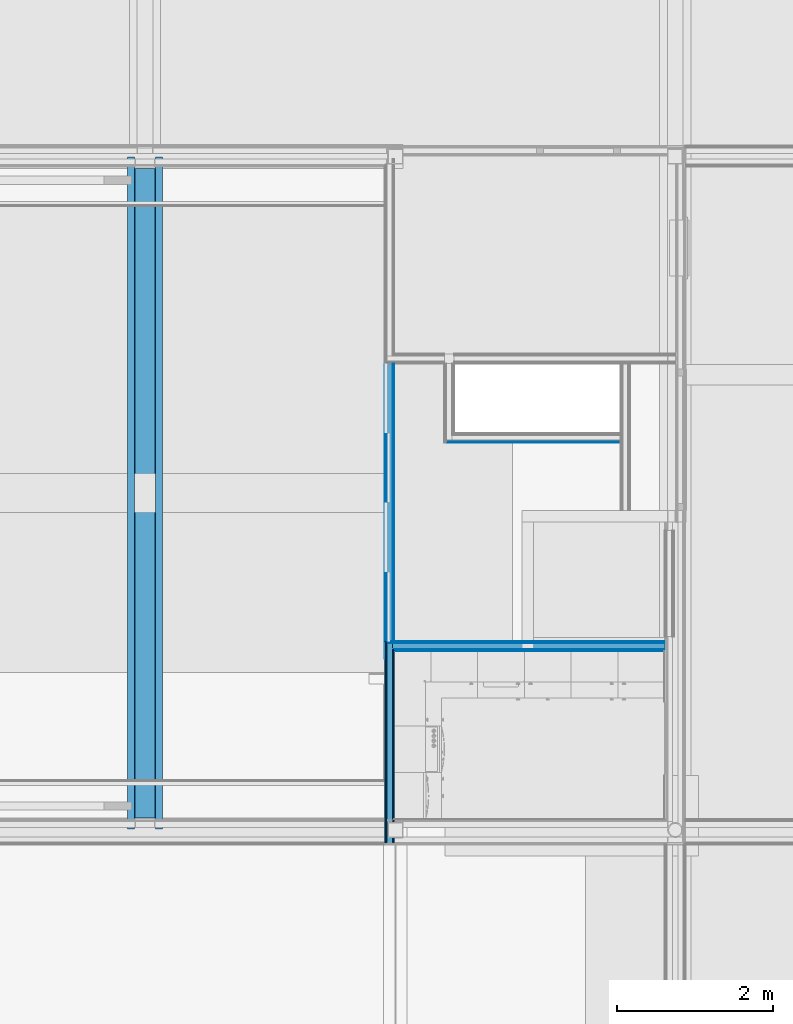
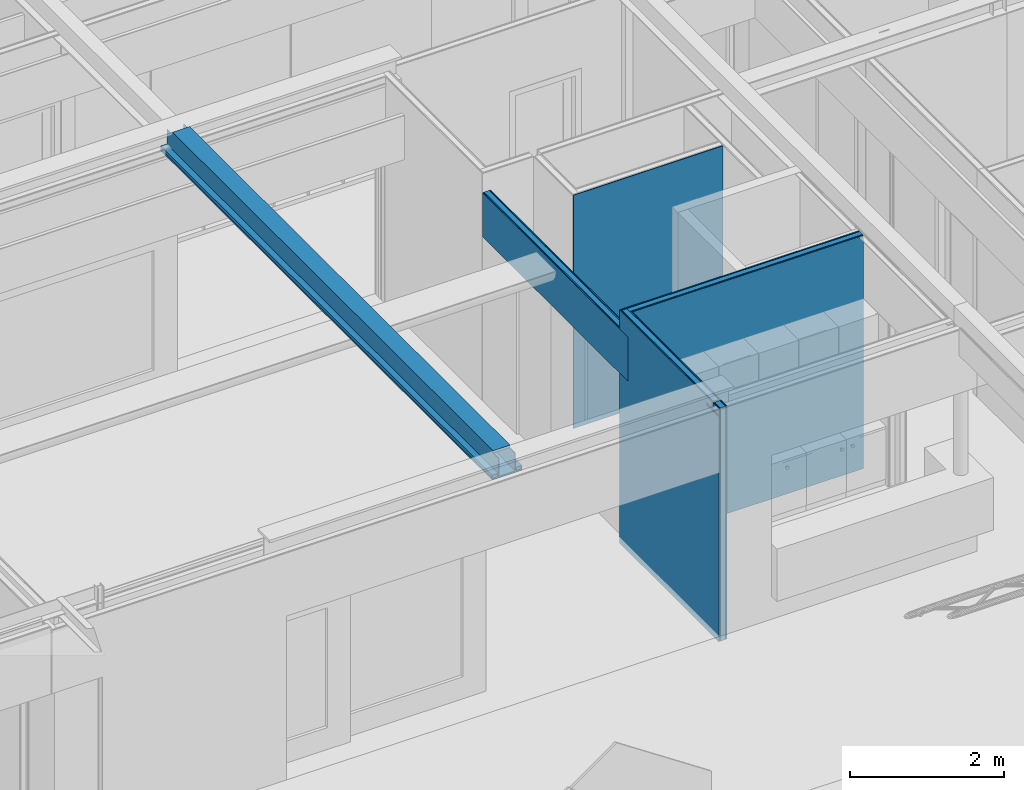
# One storey, part 69 of 165: 19 building element parts, 5 elements without a shape of their own.
"""IFC2X3 building model written with IfcOpenShell, lengths in millimetres."""

from ifc_helpers import new_model, entity, si_unit, converted_unit, derived_unit, money_unit, direction, frame, origin_with_axes, place, context, subcontext, project, spatial, faceted_brep, material, type_object, element, aggregate, save


model = new_model("IFC2X3")

# Units and contexts
model_context = context("Model", 3, precision=0.01, world=origin_with_axes(), true_north=direction((0.0, 1.0)))
body_context = subcontext(model_context, "Body", "Model", "MODEL_VIEW")
ifc_project = project(units=[si_unit("LENGTHUNIT", "METRE", prefix="MILLI"), si_unit("AREAUNIT", "SQUARE_METRE"), si_unit("VOLUMEUNIT", "CUBIC_METRE"), converted_unit("PLANEANGLEUNIT", "DEGREE", entity("IfcPlaneAngleMeasure", 0.0174532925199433), si_unit("PLANEANGLEUNIT", "RADIAN"), dimensions=[0, 0, 0, 0, 0, 0, 0]), money_unit("EUR"), converted_unit("TIMEUNIT", "Year", entity("IfcTimeMeasure", 31556926.0), si_unit("TIMEUNIT", "SECOND"), dimensions=[0, 0, 1, 0, 0, 0, 0]), si_unit("MASSUNIT", "GRAM", prefix="KILO"), si_unit("THERMODYNAMICTEMPERATUREUNIT", "DEGREE_CELSIUS"), si_unit("LUMINOUSINTENSITYUNIT", "LUMEN"), si_unit("ENERGYUNIT", "JOULE", prefix="MEGA"), derived_unit("THERMALCONDUCTANCEUNIT", [(si_unit("POWERUNIT", "WATT"), 1), (si_unit("LENGTHUNIT", "METRE"), -1), (si_unit("THERMODYNAMICTEMPERATUREUNIT", "KELVIN"), -1)]), derived_unit("SPECIFICHEATCAPACITYUNIT", [(si_unit("ENERGYUNIT", "JOULE"), 1), (si_unit("MASSUNIT", "GRAM", prefix="KILO"), -1), (si_unit("THERMODYNAMICTEMPERATUREUNIT", "KELVIN"), -1)]), derived_unit("MASSDENSITYUNIT", [(si_unit("MASSUNIT", "GRAM", prefix="KILO"), 1), (si_unit("VOLUMEUNIT", "CUBIC_METRE"), -1)])], contexts=[model_context])

# Site, building, storey
site_placement = place(None, origin_with_axes())
site = spatial("IfcSite", under=ifc_project, at=site_placement, Name="Site", CompositionType="ELEMENT")
building_placement = place(site_placement, origin_with_axes())
building = spatial("IfcBuilding", under=site, at=building_placement, Name="Naam gebouw", CompositionType="ELEMENT")
storey_placement = place(building_placement, origin_with_axes())
storey = spatial("IfcBuildingStorey", under=building, at=storey_placement, Name="Begane grond", CompositionType="ELEMENT", Elevation=0.0)

# Proxy, building element parts
building_element_proxy_type = type_object("IfcBuildingElementProxyType", Name="22 Metal stud 125 gips 125", PredefinedType="NOTDEFINED")
proxy_1_placement = place(storey_placement, frame((20775.00204583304, 10644.9988167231, -100.0), z_axis=(0.0, 0.0, 1.0), x_axis=(-1.15397287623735e-06, 0.9999999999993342, 0.0)))
proxy_1 = element("IfcBuildingElementProxy", 1, at=proxy_1_placement, inside=storey, type_object=building_element_proxy_type, Name="_Wand-x")
ifc_material_1 = material(Name="Gipsplaat")
building_element_part_1_placement = place(proxy_1_placement, origin_with_axes())
building_element_part_1 = element("IfcBuildingElementPart", 2, at=building_element_part_1_placement, material=ifc_material_1, Name="Gipsplaat", context=body_context, shape_type="Brep", body=[
    faceted_brep([(175.501264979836, -24.99999999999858, 3700.0), (175.501264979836, -24.99999999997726, 3604.999999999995), (319.0012649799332, -24.99999999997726, 3604.999999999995), (319.0012649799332, -24.99999999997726, 3564.999999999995), (11.00126497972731, -24.99999999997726, 3564.999999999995), (11.00126497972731, -24.99999999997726, 3604.999999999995), (154.5012649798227, -24.99999999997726, 3604.999999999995), (154.5012649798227, -25.00000000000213, 3700.0), (0.0, -25.00000000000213, 3700.0), (0.0, -25.00000000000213, 0.0), (2572.499395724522, -24.99999999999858, 0.0), (2572.499395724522, -24.99999999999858, 3700.0), (175.5012794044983, -12.49999999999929, 3700.0), (175.5012794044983, -12.49999999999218, 3604.999999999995), (319.0012794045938, -12.49999999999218, 3604.999999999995), (319.0012794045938, -12.49999999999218, 3564.999999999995), (11.00127940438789, -12.49999999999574, 3564.999999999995), (11.00127940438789, -12.49999999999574, 3604.999999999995), (154.5012794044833, -12.49999999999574, 3604.999999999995), (154.5012794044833, -12.49999999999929, 3700.0), (0.0, -12.49999999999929, 3700.0), (0.0, -12.49999999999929, 0.0), (2572.499412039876, -12.49999999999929, 0.0), (2572.499412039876, -12.49999999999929, 3700.0)], [[[0, 1, 2, 3, 4, 5, 6, 7, 8, 9, 10, 11]], [[1, 0, 12, 13]], [[2, 1, 13, 14]], [[3, 2, 14, 15]], [[4, 3, 15, 16]], [[5, 4, 16, 17]], [[6, 5, 17, 18]], [[19, 7, 6, 18]], [[7, 19, 20, 8]], [[20, 21, 9, 8]], [[21, 22, 10, 9]], [[22, 23, 11, 10]], [[12, 0, 11, 23]], [[13, 12, 23, 22, 21, 20, 19, 18, 17, 16, 15, 14]]]),
])
ifc_material_2 = material(Name="ALG - LICHTE SCHEIDINGSWAND")
building_element_part_2_placement = place(proxy_1_placement, origin_with_axes())
building_element_part_2 = element("IfcBuildingElementPart", 3, at=building_element_part_2_placement, material=ifc_material_2, Name="ALG - LICHTE SCHEIDINGSWAND", context=body_context, shape_type="Brep", body=[
    faceted_brep([(265.0011784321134, -99.99999999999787, 29.9999999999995), (265.0012534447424, -34.99619406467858, 29.9999999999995), (65.00125344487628, -34.99596327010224, 29.9999999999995), (65.00117843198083, -99.99999999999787, 29.9999999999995), (265.0011784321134, -99.99999999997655, 3564.999999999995), (265.0012534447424, -34.99619406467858, 3564.999999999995), (65.00125344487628, -34.99596327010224, 3564.999999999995), (65.00117843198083, -99.99999999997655, 3564.999999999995), (11.00117843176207, -99.99999999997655, 3564.999999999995), (11.00117843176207, -99.99999999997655, 3604.999999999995), (154.5011784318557, -99.99999999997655, 3604.999999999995), (154.5011784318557, -100.0000000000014, 3700.0), (0.0, -100.0000000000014, 3700.0), (0.0, -100.0000000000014, 0.0), (2559.999297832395, -99.99999999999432, 0.0), (2559.999297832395, -99.99999999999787, 3700.0), (175.5011784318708, -99.99999999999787, 3700.0), (175.5011784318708, -99.99999999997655, 3604.999999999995), (319.001178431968, -99.99999999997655, 3604.999999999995), (319.001178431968, -99.99999999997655, 3564.999999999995), (319.0012649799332, -24.99999999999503, 3564.999999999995), (11.00126497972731, -24.99999999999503, 3564.999999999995), (11.00126497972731, -24.99999999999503, 3604.999999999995), (154.5012649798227, -24.99999999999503, 3604.999999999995), (154.5012649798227, -25.00000000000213, 3700.0), (0.0, -25.00000000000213, 3700.0), (0.0, -25.00000000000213, 0.0), (2559.999395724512, -24.99999999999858, 0.0), (2559.999395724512, -24.99999999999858, 3700.0), (175.501264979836, -24.99999999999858, 3700.0), (175.501264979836, -24.99999999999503, 3604.999999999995), (319.0012649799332, -24.99999999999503, 3604.999999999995)], [[[0, 1, 2, 3]], [[0, 4, 5, 1]], [[5, 6, 2, 1]], [[6, 7, 3, 2]], [[0, 3, 7, 8, 9, 10, 11, 12, 13, 14, 15, 16, 17, 18, 19, 4]], [[6, 5, 4, 19, 20, 21, 8, 7]], [[22, 9, 8, 21]], [[23, 10, 9, 22]], [[23, 24, 11, 10]], [[12, 11, 24, 25]], [[12, 25, 26, 13]], [[13, 26, 27, 14]], [[14, 27, 28, 15]], [[28, 29, 16, 15]], [[30, 17, 16, 29]], [[31, 18, 17, 30]], [[20, 19, 18, 31]], [[31, 30, 29, 28, 27, 26, 25, 24, 23, 22, 21, 20]]]),
])
building_element_part_3_placement = place(proxy_1_placement, origin_with_axes())
building_element_part_3 = element("IfcBuildingElementPart", 4, at=building_element_part_3_placement, material=ifc_material_1, Name="Gipsplaat", context=body_context, shape_type="Brep", body=[
    faceted_brep([(265.0011784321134, -99.99999999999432, 29.9999999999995), (65.00117843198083, -99.99999999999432, 29.9999999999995), (65.00116400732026, -112.5000000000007, 29.9999999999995), (265.0011640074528, -112.5000000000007, 29.9999999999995), (265.0011784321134, -99.99999999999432, 3564.999999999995), (319.001178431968, -99.99999999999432, 3564.999999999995), (319.001178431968, -99.99999999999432, 3604.999999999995), (175.5011784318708, -99.99999999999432, 3604.999999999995), (175.5011784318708, -99.99999999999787, 3700.0), (2484.999297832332, -100.0000000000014, 3700.0), (2484.999297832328, -100.0000000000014, 0.0), (0.0, -100.0000000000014, 0.0), (0.0, -100.0000000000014, 3700.0), (154.5011784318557, -100.0000000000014, 3700.0), (154.5011784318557, -99.99999999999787, 3604.999999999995), (11.00117843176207, -99.99999999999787, 3604.999999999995), (11.00117843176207, -99.99999999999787, 3564.999999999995), (65.00117843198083, -99.99999999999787, 3564.999999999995), (65.00116400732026, -112.4999999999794, 3564.999999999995), (11.00116400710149, -112.4999999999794, 3564.999999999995), (11.00116400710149, -112.4999999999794, 3604.999999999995), (154.5011640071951, -112.4999999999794, 3604.999999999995), (154.5011640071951, -112.5000000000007, 3700.0), (0.0, -112.5000000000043, 3700.0), (0.0, -112.5000000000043, 0.0), (2484.999281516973, -112.5000000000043, 0.0), (2484.999281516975, -112.5000000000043, 3700.0), (175.5011640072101, -112.5000000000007, 3700.0), (175.5011640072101, -112.4999999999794, 3604.999999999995), (319.0011640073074, -112.4999999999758, 3604.999999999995), (319.0011640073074, -112.4999999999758, 3564.999999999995), (265.0011640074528, -112.4999999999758, 3564.999999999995)], [[[0, 1, 2, 3]], [[0, 4, 5, 6, 7, 8, 9, 10, 11, 12, 13, 14, 15, 16, 17, 1]], [[17, 18, 2, 1]], [[2, 18, 19, 20, 21, 22, 23, 24, 25, 26, 27, 28, 29, 30, 31, 3]], [[3, 31, 4, 0]], [[4, 31, 30, 5]], [[5, 30, 29, 6]], [[6, 29, 28, 7]], [[7, 28, 27, 8]], [[9, 8, 27, 26]], [[25, 10, 9, 26]], [[24, 11, 10, 25]], [[23, 12, 11, 24]], [[23, 22, 13, 12]], [[14, 13, 22, 21]], [[14, 21, 20, 15]], [[15, 20, 19, 16]], [[18, 17, 16, 19]]]),
])
building_element_part_4_placement = place(proxy_1_placement, origin_with_axes())
building_element_part_4 = element("IfcBuildingElementPart", 5, at=building_element_part_4_placement, material=ifc_material_1, Name="Gipsplaat", context=body_context, shape_type="Brep", body=[
    faceted_brep([(265.0011640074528, -112.4999999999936, 29.9999999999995), (65.00116400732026, -112.4999999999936, 29.9999999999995), (65.00114958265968, -125.0, 29.9999999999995), (265.0011495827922, -125.0, 29.9999999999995), (265.0011640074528, -112.4999999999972, 3564.999999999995), (319.0011640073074, -112.4999999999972, 3564.999999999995), (319.0011640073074, -112.4999999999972, 3604.999999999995), (175.5011640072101, -112.4999999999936, 3604.999999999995), (175.5011640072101, -112.5000000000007, 3700.0), (2472.499281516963, -112.5000000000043, 3700.0), (2472.499281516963, -112.5000000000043, 0.0), (0.0, -112.5000000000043, 0.0), (0.0, -112.5000000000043, 3700.0), (154.5011640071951, -112.5000000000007, 3700.0), (154.5011640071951, -112.4999999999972, 3604.999999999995), (11.00116400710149, -112.4999999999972, 3604.999999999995), (11.00116400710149, -112.4999999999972, 3564.999999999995), (65.00116400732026, -112.4999999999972, 3564.999999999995), (65.00114958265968, -124.9999999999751, 3564.999999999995), (11.00114958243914, -124.9999999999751, 3564.999999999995), (11.00114958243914, -124.9999999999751, 3604.999999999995), (154.5011495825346, -124.9999999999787, 3604.999999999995), (154.5011495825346, -125.0, 3700.0), (0.0, -125.0, 3700.0), (0.0, -125.0, 0.0), (2472.499265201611, -125.0, 0.0), (2472.499265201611, -125.0, 3700.0), (175.5011495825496, -125.0, 3700.0), (175.5011495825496, -124.9999999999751, 3604.999999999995), (319.001149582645, -124.9999999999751, 3604.999999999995), (319.001149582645, -124.9999999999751, 3564.999999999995), (265.0011495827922, -124.9999999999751, 3564.999999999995)], [[[0, 1, 2, 3]], [[0, 4, 5, 6, 7, 8, 9, 10, 11, 12, 13, 14, 15, 16, 17, 1]], [[17, 18, 2, 1]], [[2, 18, 19, 20, 21, 22, 23, 24, 25, 26, 27, 28, 29, 30, 31, 3]], [[3, 31, 4, 0]], [[4, 31, 30, 5]], [[5, 30, 29, 6]], [[6, 29, 28, 7]], [[7, 28, 27, 8]], [[9, 8, 27, 26]], [[25, 10, 9, 26]], [[24, 11, 10, 25]], [[23, 12, 11, 24]], [[23, 22, 13, 12]], [[14, 13, 22, 21]], [[14, 21, 20, 15]], [[15, 20, 19, 16]], [[18, 17, 16, 19]]]),
])

proxy_2_placement = place(storey_placement, frame((20774.99906281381, 13229.99824507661, -100.0), z_axis=(0.0, 0.0, 1.0), x_axis=(0.9999999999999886, -1.512553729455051e-07, 0.0)))
proxy_2 = element("IfcBuildingElementProxy", 6, at=proxy_2_placement, inside=storey, type_object=building_element_proxy_type, Name="_Wand-x")
building_element_part_5_placement = place(proxy_2_placement, origin_with_axes())
building_element_part_5 = element("IfcBuildingElementPart", 7, at=building_element_part_5_placement, material=ifc_material_1, Name="Gipsplaat", context=body_context, shape_type="Brep", body=[
    faceted_brep([(3589.999979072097, -12.49999999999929, 3695.000029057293), (3589.999977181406, 0.0, 3695.000029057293), (3589.999977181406, 0.0, 3700.0), (3589.999979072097, -12.49999999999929, 3700.0), (3524.999977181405, -2.980232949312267e-06, 3695.000029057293), (3524.999979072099, -12.49999999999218, 3695.000029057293), (3524.999977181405, -2.980232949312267e-06, 3680.000029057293), (3589.999977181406, 0.0, 3680.000029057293), (3589.999977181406, 0.0, 0.0), (12.50000000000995, 0.0, 0.0), (12.50000000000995, 0.0, 3700.0), (12.5000163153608, -12.49999999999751, 3700.0), (12.5000163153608, -12.49999999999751, 0.0), (3589.999979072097, -12.49999999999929, 0.0), (3589.999979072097, -12.49999999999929, 3680.000029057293), (3524.999979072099, -12.49999999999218, 3680.000029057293)], [[[0, 1, 2, 3]], [[4, 1, 0, 5]], [[6, 7, 8, 9, 10, 2, 1, 4]], [[2, 10, 11, 3]], [[5, 0, 3, 11, 12, 13, 14, 15]], [[6, 4, 5, 15]], [[14, 7, 6, 15]], [[7, 14, 13, 8]], [[13, 12, 9, 8]], [[12, 11, 10, 9]]]),
])
building_element_part_6_placement = place(proxy_2_placement, origin_with_axes())
building_element_part_6 = element("IfcBuildingElementPart", 8, at=building_element_part_6_placement, material=ifc_material_1, Name="Gipsplaat", context=body_context, shape_type="Brep", body=[
    faceted_brep([(3589.999980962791, -24.99999999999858, 3695.000029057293), (3589.999979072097, -12.49999999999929, 3695.000029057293), (3589.999979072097, -12.49999999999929, 3700.0), (3589.999980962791, -24.99999999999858, 3700.0), (3524.999979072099, -12.49999999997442, 3695.000029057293), (3524.999980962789, -24.99999999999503, 3695.000029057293), (3524.999979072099, -12.49999999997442, 3680.000029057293), (3589.999979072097, -12.49999999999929, 3680.000029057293), (3589.999979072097, -12.49999999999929, 0.0), (25.00001631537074, -12.49999999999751, 0.0), (25.00001631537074, -12.49999999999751, 3700.0), (25.00003263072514, -25.00000000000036, 3700.0), (25.00003263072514, -24.99999999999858, 0.0), (3589.999980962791, -24.99999999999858, 0.0), (3589.999980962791, -24.99999999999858, 3680.000029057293), (3524.999980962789, -24.99999999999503, 3680.000029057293)], [[[0, 1, 2, 3]], [[4, 1, 0, 5]], [[6, 7, 8, 9, 10, 2, 1, 4]], [[2, 10, 11, 3]], [[5, 0, 3, 11, 12, 13, 14, 15]], [[6, 4, 5, 15]], [[14, 7, 6, 15]], [[7, 14, 13, 8]], [[13, 12, 9, 8]], [[12, 11, 10, 9]]]),
])
building_element_part_7_placement = place(proxy_2_placement, origin_with_axes())
building_element_part_7 = element("IfcBuildingElementPart", 9, at=building_element_part_7_placement, material=ifc_material_2, Name="ALG - LICHTE SCHEIDINGSWAND", context=body_context, shape_type="Brep", body=[
    faceted_brep([(3589.999992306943, -99.99999999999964, 3695.000029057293), (3589.999980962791, -24.99999999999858, 3695.000029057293), (3589.999980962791, -24.99999999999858, 3700.0), (3589.999992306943, -99.99999999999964, 3700.0), (3524.999980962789, -24.99999999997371, 3695.000029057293), (3524.999992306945, -99.99999999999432, 3695.000029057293), (3524.999980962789, -24.99999999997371, 3680.000029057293), (3589.999980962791, -24.99999999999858, 3680.000029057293), (3589.999980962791, -24.99999999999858, 0.0), (100.0000326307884, -24.99999999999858, 0.0), (100.0000326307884, -24.99999999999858, 3700.0), (100.0001305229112, -99.99999999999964, 3700.0), (100.0001305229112, -100.0000000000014, 0.0), (3589.999992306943, -99.99999999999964, 0.0), (3589.999992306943, -99.99999999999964, 3680.000029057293), (3524.999992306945, -99.99999999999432, 3680.000029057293)], [[[0, 1, 2, 3]], [[4, 1, 0, 5]], [[6, 7, 8, 9, 10, 2, 1, 4]], [[2, 10, 11, 3]], [[5, 0, 3, 11, 12, 13, 14, 15]], [[6, 4, 5, 15]], [[14, 7, 6, 15]], [[7, 14, 13, 8]], [[13, 12, 9, 8]], [[12, 11, 10, 9]]]),
])
building_element_part_8_placement = place(proxy_2_placement, origin_with_axes())
building_element_part_8 = element("IfcBuildingElementPart", 10, at=building_element_part_8_placement, material=ifc_material_1, Name="Gipsplaat", context=body_context, shape_type="Brep", body=[
    faceted_brep([(3589.999996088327, -124.9999999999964, 3695.000029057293), (3589.999994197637, -112.4999999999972, 3695.000029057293), (3589.999994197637, -112.4999999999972, 3700.0), (3589.999996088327, -124.9999999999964, 3700.0), (3524.999994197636, -112.4999999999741, 3695.000029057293), (3524.999996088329, -124.9999999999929, 3695.000029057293), (3524.999994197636, -112.4999999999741, 3680.000029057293), (3589.999994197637, -112.4999999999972, 3680.000029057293), (3589.999994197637, -112.4999999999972, 0.0), (125.0001468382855, -112.4999999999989, 0.0), (125.0001468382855, -112.4999999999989, 3700.0), (125.0001631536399, -124.9999999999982, 3700.0), (125.0001631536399, -124.9999999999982, 0.0), (3589.999996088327, -124.9999999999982, 0.0), (3589.999996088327, -124.9999999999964, 3680.000029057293), (3524.999996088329, -124.9999999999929, 3680.000029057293)], [[[0, 1, 2, 3]], [[4, 1, 0, 5]], [[6, 7, 8, 9, 10, 2, 1, 4]], [[2, 10, 11, 3]], [[5, 0, 3, 11, 12, 13, 14, 15]], [[6, 4, 5, 15]], [[14, 7, 6, 15]], [[7, 14, 13, 8]], [[13, 12, 9, 8]], [[12, 11, 10, 9]]]),
])
building_element_part_9_placement = place(proxy_2_placement, origin_with_axes())
building_element_part_9 = element("IfcBuildingElementPart", 11, at=building_element_part_9_placement, material=ifc_material_1, Name="Gipsplaat", context=body_context, shape_type="Brep", body=[
    faceted_brep([(3589.999994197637, -112.4999999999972, 3695.000029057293), (3589.999992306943, -99.99999999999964, 3695.000029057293), (3589.999992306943, -99.99999999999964, 3700.0), (3589.999994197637, -112.4999999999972, 3700.0), (3524.999992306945, -99.999999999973, 3695.000029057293), (3524.999994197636, -112.4999999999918, 3695.000029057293), (3524.999992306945, -99.999999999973, 3680.000029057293), (3589.999992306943, -99.99999999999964, 3680.000029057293), (3589.999992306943, -99.99999999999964, 0.0), (112.5001305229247, -100.0000000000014, 0.0), (112.5001305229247, -99.99999999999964, 3700.0), (112.5001468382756, -112.5000000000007, 3700.0), (112.5001468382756, -112.4999999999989, 0.0), (3589.999994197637, -112.4999999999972, 0.0), (3589.999994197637, -112.4999999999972, 3680.000029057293), (3524.999994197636, -112.4999999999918, 3680.000029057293)], [[[0, 1, 2, 3]], [[4, 1, 0, 5]], [[6, 7, 8, 9, 10, 2, 1, 4]], [[2, 10, 11, 3]], [[5, 0, 3, 11, 12, 13, 14, 15]], [[6, 4, 5, 15]], [[14, 7, 6, 15]], [[7, 14, 13, 8]], [[13, 12, 9, 8]], [[12, 11, 10, 9]]]),
])
aggregate(proxy_2, [building_element_part_5, building_element_part_6, building_element_part_7, building_element_part_8, building_element_part_9])

# Building element part
building_element_part_10_placement = place(proxy_1_placement, origin_with_axes())
building_element_part_10 = element("IfcBuildingElementPart", 12, at=building_element_part_10_placement, material=ifc_material_1, Name="Gipsplaat", context=body_context, shape_type="Brep", body=[
    faceted_brep([(175.5012794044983, -12.49999999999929, 3700.0), (175.5012794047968, -12.49974035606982, 3604.999999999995), (319.001279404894, -12.49974035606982, 3604.999999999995), (319.001279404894, -12.49974035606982, 3564.999999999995), (11.00127940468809, -12.49974035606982, 3564.999999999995), (11.00127940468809, -12.49974035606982, 3604.999999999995), (154.5012794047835, -12.49974035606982, 3604.999999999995), (154.5012794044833, -12.49999999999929, 3700.0), (0.0, -12.49999999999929, 3700.0), (0.0, -12.49999999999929, 0.0), (2584.999412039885, -12.49999999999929, 0.0), (2584.999426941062, -12.50000000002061, 100.0), (2584.99940905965, -12.49999999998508, 2700.0), (2359.999395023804, -12.49974035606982, 2700.0), (2359.999395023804, -12.49974035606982, 3400.0), (2584.99940905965, -12.49999999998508, 3400.0), (2584.999412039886, -12.49999999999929, 3700.0), (175.5012938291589, 0.0, 3700.0), (175.5012938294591, 0.0002596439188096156, 3604.999999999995), (319.0012938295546, 0.0002596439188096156, 3604.999999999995), (319.0012938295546, 0.0002596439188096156, 3564.999999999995), (11.00129382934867, 0.0002596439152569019, 3564.999999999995), (11.00129382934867, 0.0002596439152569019, 3604.999999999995), (154.5012938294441, 0.0002596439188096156, 3604.999999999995), (154.5012938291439, 0.0, 3700.0), (0.0, 0.0, 3700.0), (0.0, 0.0, 0.0), (2584.999428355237, 0.0, 0.0), (2584.999443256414, 0.0, 100.0), (2584.999425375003, 0.0, 2700.0), (2359.999409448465, 0.0002596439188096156, 2700.0), (2359.999409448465, 0.0002596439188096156, 3400.0), (2584.999425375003, 0.0, 3400.0), (2584.999428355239, 0.0, 3700.0)], [[[0, 1, 2, 3, 4, 5, 6, 7, 8, 9, 10, 11, 12, 13, 14, 15, 16]], [[1, 0, 17, 18]], [[2, 1, 18, 19]], [[3, 2, 19, 20]], [[4, 3, 20, 21]], [[5, 4, 21, 22]], [[6, 5, 22, 23]], [[24, 7, 6, 23]], [[7, 24, 25, 8]], [[25, 26, 9, 8]], [[9, 26, 27, 10]], [[10, 27, 28, 11]], [[28, 29, 12, 11]], [[30, 13, 12, 29]], [[31, 14, 13, 30]], [[31, 32, 15, 14]], [[16, 15, 32, 33]], [[17, 0, 16, 33]], [[18, 17, 33, 32, 31, 30, 29, 28, 27, 26, 25, 24, 23, 22, 21, 20, 19]]]),
])

aggregate(proxy_1, [building_element_part_1, building_element_part_2, building_element_part_3, building_element_part_4, building_element_part_10])

# Beam, building element parts
beam_type = type_object("IfcBeamType", Name="28 THQ 02 450 x 345", PredefinedType="BEAM")
beam_placement = place(storey_placement, frame((17699.99942456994, 19450.00039292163, 3860.000026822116), z_axis=(0.0, 0.0, 1.0), x_axis=(-1.0, 0.0, 0.0)))
beam = element("IfcBeam", 13, at=beam_placement, inside=storey, type_object=beam_type, Name="_Regenwaterafvoer-x", ObjectType="BEAM")
ifc_material_3 = material(Name="Metaal - Staal C")
building_element_part_11_placement = place(beam_placement, origin_with_axes())
building_element_part_11 = element("IfcBuildingElementPart", 14, at=building_element_part_11_placement, material=ifc_material_3, Name="Metaal - Staal C", context=body_context, shape_type="Brep", body=[
    faceted_brep([(139.9999977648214, 8629.500282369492, -314.9999977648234), (139.9999977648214, 8629.500282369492, -274.9999955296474), (139.999997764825, 10.50058170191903, -274.9999955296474), (139.999997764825, 10.50058170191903, -314.9999977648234), (134.999999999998, 8629.500282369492, -319.9999955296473), (134.999999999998, 8629.500282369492, -269.9999977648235), (225.0000000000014, 8629.500282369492, -269.9999977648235), (225.0000000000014, 8629.500282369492, -319.9999955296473), (220.0000022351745, 8629.500282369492, -274.9999955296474), (220.0000022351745, 8629.500282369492, -314.9999977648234), (220.000002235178, 10.50058170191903, -274.9999955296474), (225.0000000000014, 10.50058170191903, -319.9999955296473), (225.0000000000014, 10.50058170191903, -269.9999977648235), (135.0000000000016, 10.50058170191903, -269.9999977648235), (135.0000000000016, 10.50058170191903, -319.9999955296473), (220.000002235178, 10.50058170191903, -314.9999977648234)], [[[0, 1, 2, 3]], [[4, 5, 6, 7], [8, 1, 0, 9]], [[1, 8, 10, 2]], [[11, 12, 13, 14], [15, 3, 2, 10]], [[9, 0, 3, 15]], [[5, 4, 14, 13]], [[6, 5, 13, 12]], [[7, 6, 12, 11]], [[4, 7, 11, 14]], [[8, 9, 15, 10]]]),
])
building_element_part_12_placement = place(beam_placement, origin_with_axes())
building_element_part_12 = element("IfcBuildingElementPart", 15, at=building_element_part_12_placement, material=ifc_material_3, Name="Metaal - Staal C", context=body_context, shape_type="Brep", body=[
    faceted_brep([(-220.000002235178, 8629.500282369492, -314.9999977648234), (-220.000002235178, 8629.500282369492, -274.9999955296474), (-220.000002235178, 10.50058170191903, -274.9999955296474), (-220.000002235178, 10.50058170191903, -314.9999977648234), (-225.0000000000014, 8629.500282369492, -319.9999955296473), (-225.0000000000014, 8629.500282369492, -269.9999977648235), (-135.0000000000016, 8629.500282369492, -269.9999977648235), (-135.0000000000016, 8629.500282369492, -319.9999955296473), (-139.999997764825, 8629.500282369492, -274.9999955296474), (-139.999997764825, 8629.500282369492, -314.9999977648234), (-139.999997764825, 10.50058170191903, -274.9999955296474), (-135.0000000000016, 10.50058170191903, -319.9999955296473), (-135.0000000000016, 10.50058170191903, -269.9999977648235), (-225.0000000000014, 10.50058170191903, -269.9999977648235), (-225.0000000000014, 10.50058170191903, -319.9999955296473), (-139.999997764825, 10.50058170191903, -314.9999977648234)], [[[0, 1, 2, 3]], [[4, 5, 6, 7], [8, 1, 0, 9]], [[1, 8, 10, 2]], [[11, 12, 13, 14], [15, 3, 2, 10]], [[9, 0, 3, 15]], [[5, 4, 14, 13]], [[6, 5, 13, 12]], [[7, 6, 12, 11]], [[4, 7, 11, 14]], [[8, 9, 15, 10]]]),
])
building_element_part_13_placement = place(beam_placement, origin_with_axes())
building_element_part_13 = element("IfcBuildingElementPart", 16, at=building_element_part_13_placement, material=ifc_material_3, Name="Metaal - Staal C", context=body_context, shape_type="Brep", body=[
    faceted_brep([(-120.000000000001, 8629.500282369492, -319.9999977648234), (-120.000000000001, 8629.500282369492, -40.000026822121), (-120.000000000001, 8486.000282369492, -40.000026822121), (-120.000000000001, 154.0005817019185, -40.000026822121), (-120.000000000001, 10.50058170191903, -40.000026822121), (-120.000000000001, 10.50058170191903, -319.9999977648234), (-225.0000000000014, 8629.500282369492, -344.9999977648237), (-225.0000000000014, 8629.500282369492, -319.9999977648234), (-135.0000000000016, 8629.500282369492, -319.9999955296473), (-128.0000000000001, 8629.500282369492, -319.9999977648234), (-128.0000000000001, 8629.500282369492, -40.000026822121), (120.000000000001, 8629.500282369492, -319.9999977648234), (120.000000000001, 8629.500282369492, -40.000026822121), (128.0000000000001, 8629.500282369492, -40.000026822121), (128.0000000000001, 8629.500282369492, -319.9999977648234), (134.999999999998, 8629.500282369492, -319.9999955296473), (225.0000000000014, 8629.500282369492, -319.9999977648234), (225.0000000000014, 8629.500282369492, -344.9999977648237), (-128.0000000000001, 8486.000282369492, -40.000026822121), (120.000000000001, 8486.000282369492, -40.000026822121), (120.000000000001, 154.0005817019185, -40.000026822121), (-128.0000000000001, 154.0005817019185, -40.000026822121), (-128.0000000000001, 10.50058170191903, -40.000026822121), (-128.0000000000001, 10.50058170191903, -319.9999977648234), (-135.0000000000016, 10.50058170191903, -319.9999955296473), (-225.0000000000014, 10.50058170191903, -319.9999977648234), (-225.0000000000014, 10.50058170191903, -344.9999977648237), (225.0000000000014, 10.50058170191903, -344.9999977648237), (225.0000000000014, 10.50058170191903, -319.9999977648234), (135.0000000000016, 10.50058170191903, -319.9999955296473), (128.0000000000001, 10.50058170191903, -319.9999977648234), (128.0000000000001, 10.50058170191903, -40.000026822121), (120.000000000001, 10.50058170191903, -40.000026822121), (120.000000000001, 10.50058170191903, -319.9999977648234), (-128.0000000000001, 154.0005817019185, -2.682212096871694e-05), (-128.0000000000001, 8486.000282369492, -2.682212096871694e-05), (128.0000000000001, 8486.000282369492, -40.000026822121), (128.0000000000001, 8486.000282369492, -2.682212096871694e-05), (128.0000000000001, 154.0005817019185, -2.682212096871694e-05), (128.0000000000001, 154.0005817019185, -40.000026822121)], [[[0, 1, 2, 3, 4, 5]], [[6, 7, 8, 9, 10, 1, 0, 11, 12, 13, 14, 15, 16, 17]], [[10, 18, 2, 1]], [[2, 19, 20, 3]], [[3, 21, 22, 4]], [[23, 24, 25, 26, 27, 28, 29, 30, 31, 32, 33, 5, 4, 22]], [[11, 0, 5, 33]], [[7, 6, 26, 25]], [[8, 7, 25, 24]], [[9, 8, 24, 23]], [[10, 9, 23, 22, 21, 34, 35, 18]], [[12, 11, 33, 32, 20, 19]], [[12, 19, 36, 13]], [[36, 37, 38, 39, 31, 30, 14, 13]], [[15, 14, 30, 29]], [[16, 15, 29, 28]], [[17, 16, 28, 27]], [[6, 17, 27, 26]], [[18, 35, 37, 36, 19, 2]], [[39, 38, 34, 21, 3, 20]], [[39, 20, 32, 31]], [[37, 35, 34, 38]]]),
])
aggregate(beam, [building_element_part_11, building_element_part_12, building_element_part_13])

# Proxy, building element parts
proxy_3_placement = place(storey_placement, frame((20774.99906281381, 16789.99783866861, 2600.0), z_axis=(0.0, 0.0, 1.0), x_axis=(0.0, -1.0, 0.0)))
proxy_3 = element("IfcBuildingElementProxy", 17, at=proxy_3_placement, inside=storey, type_object=building_element_proxy_type, Name="_Wand-x")
building_element_part_14_placement = place(proxy_3_placement, origin_with_axes())
building_element_part_14 = element("IfcBuildingElementPart", 18, at=building_element_part_14_placement, material=ifc_material_1, Name="Gipsplaat", context=body_context, shape_type="Brep", body=[
    faceted_brep([(3559.999612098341, 112.5000000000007, 699.9999999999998), (3559.999613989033, 125.0, 699.9999999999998), (5.700504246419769e-05, 125.0, 699.9999999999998), (5.700504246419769e-05, 112.5000000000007, 699.9999999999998), (3559.999613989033, 125.0, 0.0), (3559.999612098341, 112.5000000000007, 0.0), (5.700504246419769e-05, 125.0, 0.0), (5.700504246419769e-05, 112.5000000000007, 0.0)], [[[0, 1, 2, 3]], [[4, 1, 0, 5]], [[1, 4, 6, 2]], [[3, 2, 6, 7]], [[5, 0, 3, 7]], [[4, 5, 7, 6]]]),
])
building_element_part_15_placement = place(proxy_3_placement, origin_with_axes())
building_element_part_15 = element("IfcBuildingElementPart", 19, at=building_element_part_15_placement, material=ifc_material_1, Name="Gipsplaat", context=body_context, shape_type="Brep", body=[
    faceted_brep([(3559.999610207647, 99.99999999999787, 699.9999999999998), (3559.999612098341, 112.5000000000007, 699.9999999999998), (5.700504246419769e-05, 112.5000000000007, 699.9999999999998), (5.700504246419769e-05, 100.0000000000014, 699.9999999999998), (3559.999612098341, 112.5000000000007, 0.0), (3559.999610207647, 99.99999999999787, 0.0), (5.700504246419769e-05, 112.5000000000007, 0.0), (5.700504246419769e-05, 100.0000000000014, 0.0)], [[[0, 1, 2, 3]], [[4, 1, 0, 5]], [[1, 4, 6, 2]], [[3, 2, 6, 7]], [[5, 0, 3, 7]], [[4, 5, 7, 6]]]),
])
building_element_part_16_placement = place(proxy_3_placement, origin_with_axes())
building_element_part_16 = element("IfcBuildingElementPart", 20, at=building_element_part_16_placement, material=ifc_material_1, Name="Gipsplaat", context=body_context, shape_type="Brep", body=[
    faceted_brep([(5.700504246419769e-05, 12.49999999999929, 0.0), (5.700504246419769e-05, 12.49999999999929, 699.9999999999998), (3784.999612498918, 12.49999999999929, 699.9999999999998), (3784.999612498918, 12.49999999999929, 0.0), (5.700504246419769e-05, 4.172403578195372e-05, 699.9999999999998), (5.700504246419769e-05, 4.172403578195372e-05, 0.0), (3784.999612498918, 0.0, 699.9999999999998), (3784.999612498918, 0.0, 0.0)], [[[0, 1, 2, 3]], [[4, 1, 0, 5]], [[1, 4, 6, 2]], [[6, 7, 3, 2]], [[5, 0, 3, 7]], [[4, 5, 7, 6]]]),
])
building_element_part_17_placement = place(proxy_3_placement, origin_with_axes())
building_element_part_17 = element("IfcBuildingElementPart", 21, at=building_element_part_17_placement, material=ifc_material_2, Name="ALG - LICHTE SCHEIDINGSWAND", context=body_context, shape_type="Brep", body=[
    faceted_brep([(3559.999598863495, 24.99999999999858, 699.9999999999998), (3559.999610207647, 99.99999999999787, 699.9999999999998), (5.700504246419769e-05, 100.0000000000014, 699.9999999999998), (5.700504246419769e-05, 24.99999999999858, 699.9999999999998), (3559.999610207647, 99.99999999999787, 0.0), (3559.999598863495, 24.99999999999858, 0.0), (5.700504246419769e-05, 100.0000000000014, 0.0), (5.700504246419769e-05, 24.99999999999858, 0.0)], [[[0, 1, 2, 3]], [[4, 1, 0, 5]], [[1, 4, 6, 2]], [[3, 2, 6, 7]], [[5, 0, 3, 7]], [[4, 5, 7, 6]]]),
])
building_element_part_18_placement = place(proxy_3_placement, origin_with_axes())
building_element_part_18 = element("IfcBuildingElementPart", 22, at=building_element_part_18_placement, material=ifc_material_1, Name="Gipsplaat", context=body_context, shape_type="Brep", body=[
    faceted_brep([(3559.999596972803, 12.50000000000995, 699.9999999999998), (3559.999598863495, 24.99999999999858, 699.9999999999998), (5.700504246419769e-05, 24.99999999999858, 699.9999999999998), (5.700504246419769e-05, 12.49999999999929, 699.9999999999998), (3559.999598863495, 24.99999999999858, 0.0), (3559.999596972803, 12.49999999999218, 0.0), (5.700504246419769e-05, 24.99999999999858, 0.0), (5.700504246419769e-05, 12.49999999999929, 0.0)], [[[0, 1, 2, 3]], [[4, 1, 0, 5]], [[1, 4, 6, 2]], [[3, 2, 6, 7]], [[5, 0, 3, 7]], [[4, 5, 7, 6]]]),
])
aggregate(proxy_3, [building_element_part_14, building_element_part_15, building_element_part_16, building_element_part_17, building_element_part_18])

# Proxy, building element part
proxy_4_placement = place(storey_placement, frame((23924.99903999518, 15774.99754721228, -100.0), z_axis=(0.0, 0.0, 1.0), x_axis=(-0.9999999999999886, 1.512553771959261e-07, 0.0)))
proxy_4 = element("IfcBuildingElementProxy", 23, at=proxy_4_placement, inside=storey, type_object=building_element_proxy_type, Name="_Wand-x")
building_element_part_19_placement = place(proxy_4_placement, origin_with_axes())
building_element_part_19 = element("IfcBuildingElementPart", 24, at=building_element_part_19_placement, material=ifc_material_1, Name="Gipsplaat", context=body_context, shape_type="Brep", body=[
    faceted_brep([(2372.500000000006, 0.0, 3700.0), (125.0000000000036, 0.0, 3700.0), (125.0000018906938, -12.49999999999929, 3700.0), (2372.50000000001, -12.49999999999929, 3700.0), (2372.500000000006, 0.0, 0.0), (125.0000000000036, 0.0, 0.0), (125.0000018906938, -12.49999999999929, 0.0), (2372.50000000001, -12.49999999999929, 0.0)], [[[0, 1, 2, 3]], [[4, 5, 1, 0]], [[2, 1, 5, 6]], [[3, 2, 6, 7]], [[3, 7, 4, 0]], [[7, 6, 5, 4]]]),
])
aggregate(proxy_4, [building_element_part_19])

save(model, "model.ifc")
